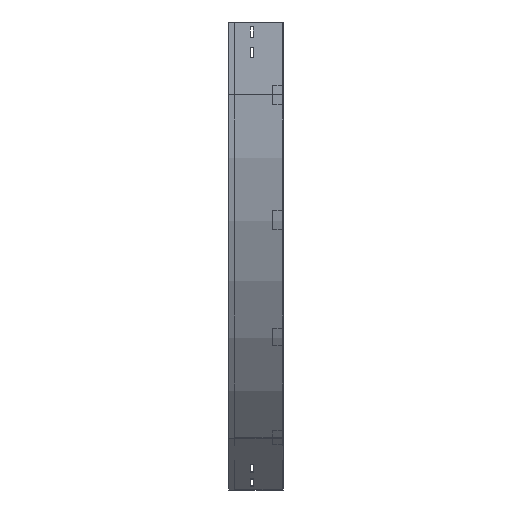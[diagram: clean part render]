
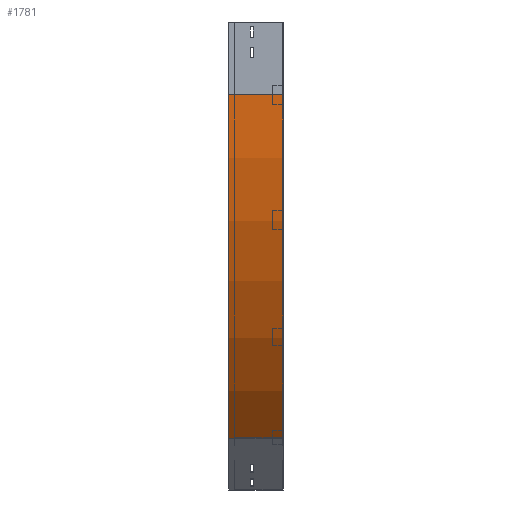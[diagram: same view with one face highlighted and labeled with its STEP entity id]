
A CAD part, left-side view. The second image highlights one B-rep face of the part: STEP entity #1781.
In plain terms, the highlighted cylindrical face has radius 1000 mm (diameter 2000 mm), a partial arc.
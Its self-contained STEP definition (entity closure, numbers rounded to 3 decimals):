
#87 = DIRECTION ( 'NONE',  ( -1., 0., 0. ) ) ;
#225 = DIRECTION ( 'NONE',  ( 0., -1., 0. ) ) ;
#246 = CARTESIAN_POINT ( 'NONE',  ( 1000., 0., -150. ) ) ;
#302 = DIRECTION ( 'NONE',  ( 0., 0., -1. ) ) ;
#309 = DIRECTION ( 'NONE',  ( 0., -1., 0. ) ) ;
#374 = VECTOR ( 'NONE', #309, 1000. ) ;
#435 = CARTESIAN_POINT ( 'NONE',  ( 0., 112.5, -150. ) ) ;
#516 = VERTEX_POINT ( 'NONE', #1550 ) ;
#542 = EDGE_LOOP ( 'NONE', ( #3530, #744, #2886, #3097 ) ) ;
#674 = CIRCLE ( 'NONE', #3604, 1000. ) ;
#744 = ORIENTED_EDGE ( 'NONE', *, *, #2171, .F. ) ;
#805 = AXIS2_PLACEMENT_3D ( 'NONE', #246, #1747, #1375 ) ;
#1375 = DIRECTION ( 'NONE',  ( -1., 0., 0. ) ) ;
#1387 = VECTOR ( 'NONE', #225, 1000. ) ;
#1394 = LINE ( 'NONE', #2929, #1387 ) ;
#1432 = CIRCLE ( 'NONE', #805, 1000. ) ;
#1550 = CARTESIAN_POINT ( 'NONE',  ( 292.893, 112.5, -857.107 ) ) ;
#1747 = DIRECTION ( 'NONE',  ( 0., -1., 0. ) ) ;
#1781 = ADVANCED_FACE ( 'NONE', ( #3315 ), #3005, .T. ) ;
#1921 = CARTESIAN_POINT ( 'NONE',  ( 1000., 112.5, -150. ) ) ;
#2150 = LINE ( 'NONE', #3053, #374 ) ;
#2171 = EDGE_CURVE ( 'NONE', #3761, #3512, #2150, .T. ) ;
#2337 = DIRECTION ( 'NONE',  ( 0., -1., 0. ) ) ;
#2467 = CARTESIAN_POINT ( 'NONE',  ( 0., 0., -150. ) ) ;
#2710 = EDGE_CURVE ( 'NONE', #3761, #516, #674, .T. ) ;
#2752 = DIRECTION ( 'NONE',  ( 0., -1., 0. ) ) ;
#2794 = EDGE_CURVE ( 'NONE', #3512, #3431, #1432, .T. ) ;
#2886 = ORIENTED_EDGE ( 'NONE', *, *, #2710, .T. ) ;
#2929 = CARTESIAN_POINT ( 'NONE',  ( 292.893, 0., -857.107 ) ) ;
#2953 = AXIS2_PLACEMENT_3D ( 'NONE', #2972, #2337, #302 ) ;
#2972 = CARTESIAN_POINT ( 'NONE',  ( 1000., 0., -150. ) ) ;
#3005 = CYLINDRICAL_SURFACE ( 'NONE', #2953, 1000. ) ;
#3053 = CARTESIAN_POINT ( 'NONE',  ( 0., 0., -150. ) ) ;
#3097 = ORIENTED_EDGE ( 'NONE', *, *, #3206, .T. ) ;
#3206 = EDGE_CURVE ( 'NONE', #516, #3431, #1394, .T. ) ;
#3315 = FACE_OUTER_BOUND ( 'NONE', #542, .T. ) ;
#3431 = VERTEX_POINT ( 'NONE', #3686 ) ;
#3512 = VERTEX_POINT ( 'NONE', #2467 ) ;
#3530 = ORIENTED_EDGE ( 'NONE', *, *, #2794, .F. ) ;
#3604 = AXIS2_PLACEMENT_3D ( 'NONE', #1921, #2752, #87 ) ;
#3686 = CARTESIAN_POINT ( 'NONE',  ( 292.893, 0., -857.107 ) ) ;
#3761 = VERTEX_POINT ( 'NONE', #435 ) ;
